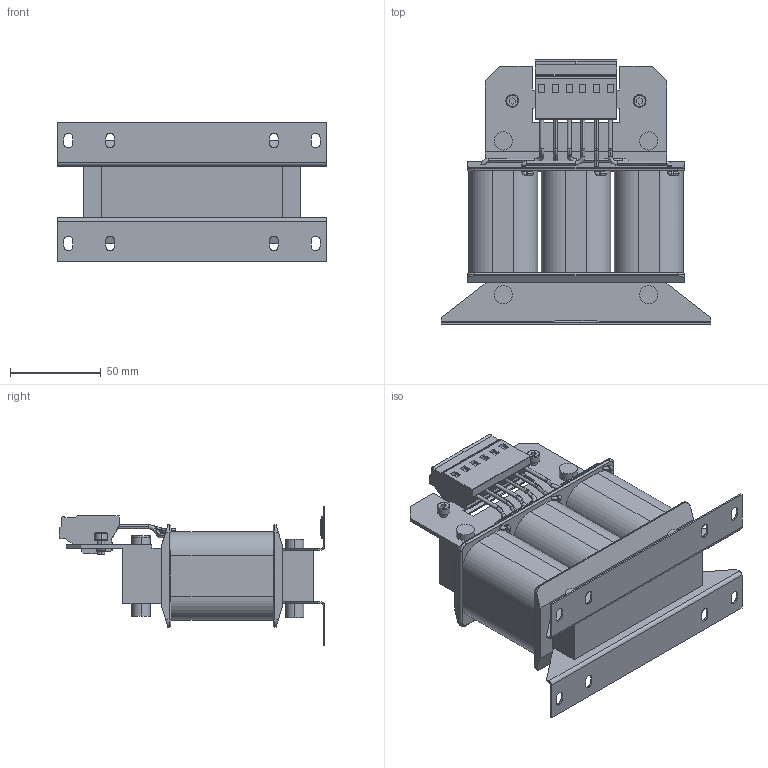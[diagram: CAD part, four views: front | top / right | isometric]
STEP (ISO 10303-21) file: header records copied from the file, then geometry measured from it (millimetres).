
FILE_DESCRIPTION (( 'STEP AP214' ), '1' );
FILE_NAME ('00Z1FX4-0014.STEP', '2022-08-16T07:47:47', ( '' ), ( '' ), 'SwSTEP 2.0', 'SolidWorks 2022', '' );
FILE_SCHEMA (( 'AUTOMOTIVE_DESIGN' ));
Length unit declared in the file: centimetre
Products named in the file (1): 00Z1FX4-0014
Bounding box: 148 x 146 x 76.4 mm (x, y, z)
Volume: 506538.1 mm3; surface area: 85596.1 mm2
Topology: 1 solids, 1 shells, 455 faces, 1242 edges, 810 vertices
Faces by surface type: plane 206, cylinder 166, torus 64, bspline 15, cone 4
Entity records: 15860 total; most frequent: CARTESIAN_POINT 4069, ORIENTED_EDGE 2484, DIRECTION 2343, EDGE_CURVE 1242, AXIS2_PLACEMENT_3D 845, VERTEX_POINT 810, VECTOR 653, LINE 653
